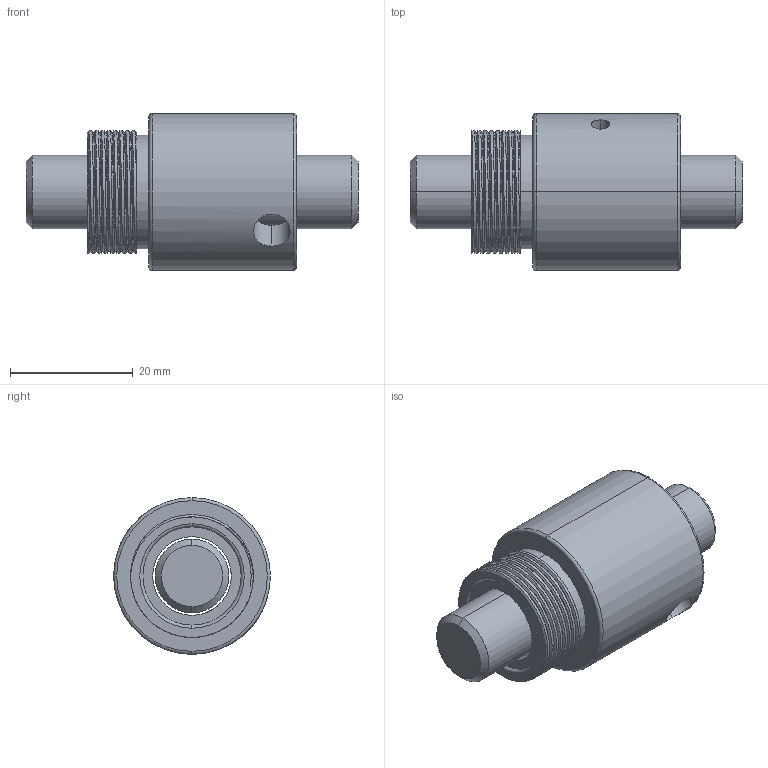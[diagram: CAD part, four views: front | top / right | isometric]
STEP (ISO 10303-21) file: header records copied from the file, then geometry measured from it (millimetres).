
FILE_DESCRIPTION (( 'STEP AP203' ), '1' );
FILE_NAME ('BSHR01204T3-C.STEP', '2020-06-17T07:01:48', ( '' ), ( '' ), 'SwSTEP 2.0', 'SolidWorks 2013', '' );
FILE_SCHEMA (( 'CONFIG_CONTROL_DESIGN' ));
Length unit declared in the file: millimetre
Products named in the file (1): BSHR01204T3-C
Bounding box: 54 x 25.5 x 25.5 mm (x, y, z)
Volume: 16648.6 mm3; surface area: 7218.9 mm2
Topology: 2 solids, 2 shells, 55 faces, 131 edges, 83 vertices
Faces by surface type: cylinder 30, torus 8, plane 8, cone 6, bspline 3
Entity records: 3567 total; most frequent: CARTESIAN_POINT 2319, ORIENTED_EDGE 258, DIRECTION 233, EDGE_CURVE 129, AXIS2_PLACEMENT_3D 99, VERTEX_POINT 83, EDGE_LOOP 64, ADVANCED_FACE 55
